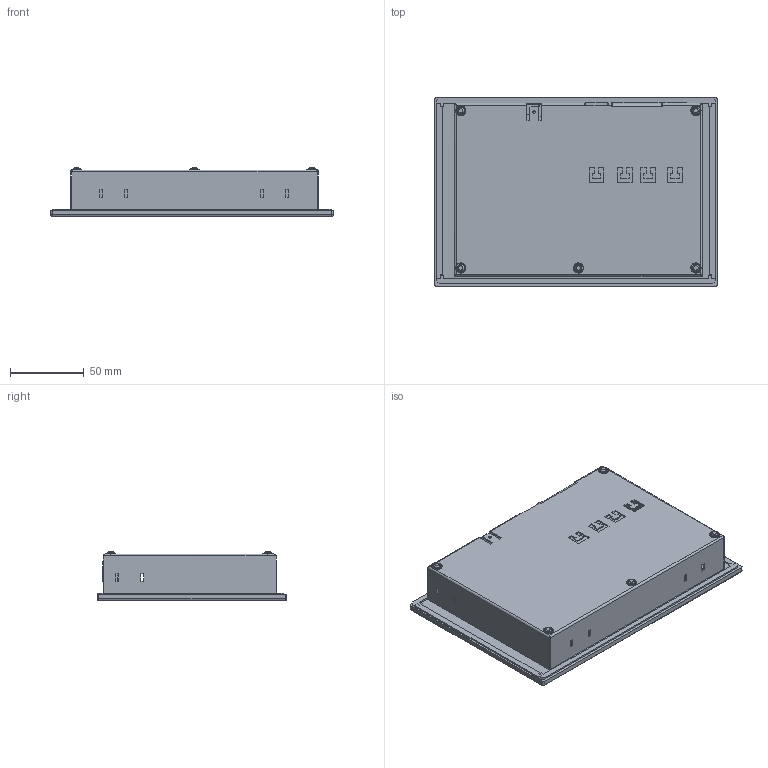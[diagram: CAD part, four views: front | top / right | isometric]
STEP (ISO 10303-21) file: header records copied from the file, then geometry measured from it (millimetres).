
FILE_DESCRIPTION (( 'STEP AP214' ), '1' );
FILE_NAME ('ETT764 01-230-764 20200317.STEP', '2021-03-17T10:30:19', ( 'Windows-Benutzer' ), ( '' ), 'SwSTEP 2.0', 'SolidWorks 2020', '' );
FILE_SCHEMA (( 'AUTOMOTIVE_DESIGN' ));
Length unit declared in the file: millimetre
Products named in the file (1): ETT764 01-230-764 20200317
Bounding box: 191 x 128 x 33.05 mm (x, y, z)
Volume: 90489.2 mm3; surface area: 143593.4 mm2
Topology: 23 solids, 23 shells, 477 faces, 1168 edges, 740 vertices
Faces by surface type: plane 312, cylinder 91, torus 30, cone 22, sphere 14, bspline 8
Entity records: 14602 total; most frequent: CARTESIAN_POINT 2781, DIRECTION 2351, ORIENTED_EDGE 2328, EDGE_CURVE 1164, VECTOR 855, LINE 855, AXIS2_PLACEMENT_3D 748, VERTEX_POINT 740
